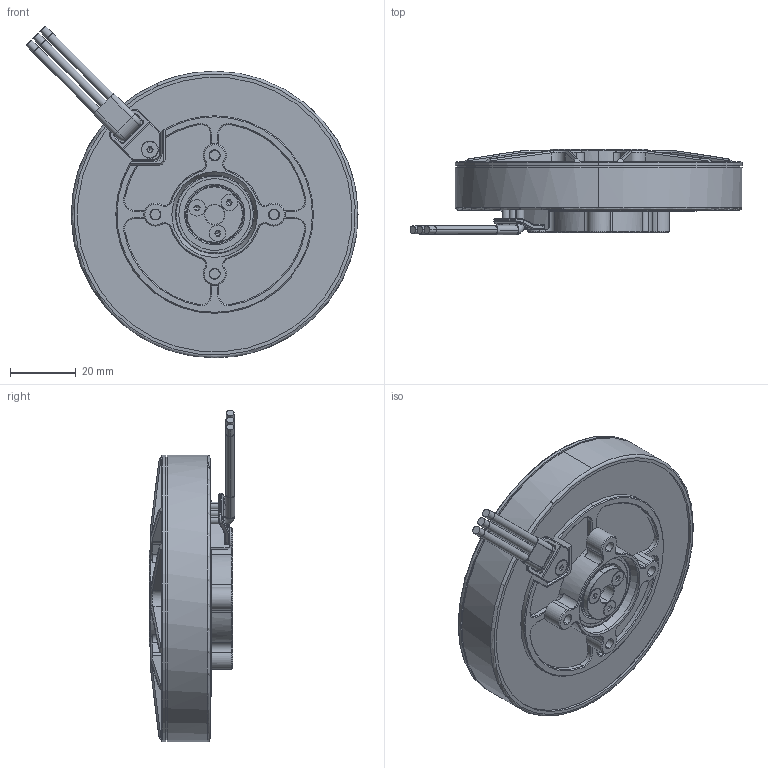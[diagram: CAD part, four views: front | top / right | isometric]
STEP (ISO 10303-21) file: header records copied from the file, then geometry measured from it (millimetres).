
FILE_DESCRIPTION (( 'STEP AP203' ), '1' );
FILE_NAME ('8108-UL-勤俋.STEP', '2024-01-17T02:35:24', ( '' ), ( '' ), 'SwSTEP 2.0', 'SolidWorks 2021', '' );
FILE_SCHEMA (( 'CONFIG_CONTROL_DESIGN' ));
Products named in the file (1): 8108-UL-勤俋
Bounding box: 100.87 x 26.05 x 100.8 mm (x, y, z)
Volume: 85272.6 mm3; surface area: 29520.7 mm2
Topology: 9 solids, 23 shells, 1542 faces, 3949 edges, 2481 vertices
Faces by surface type: cylinder 551, plane 463, bspline 265, cone 245, torus 18
Entity records: 119599 total; most frequent: CARTESIAN_POINT 84979, ORIENTED_EDGE 7854, DIRECTION 6625, EDGE_CURVE 3927, AXIS2_PLACEMENT_3D 2510, VERTEX_POINT 2481, EDGE_LOOP 1626, VECTOR 1605
